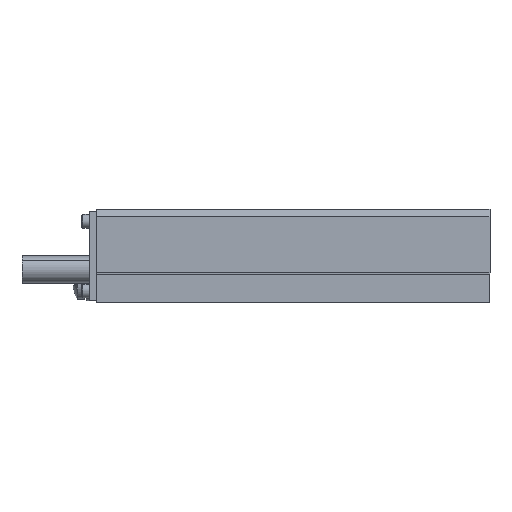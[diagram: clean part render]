
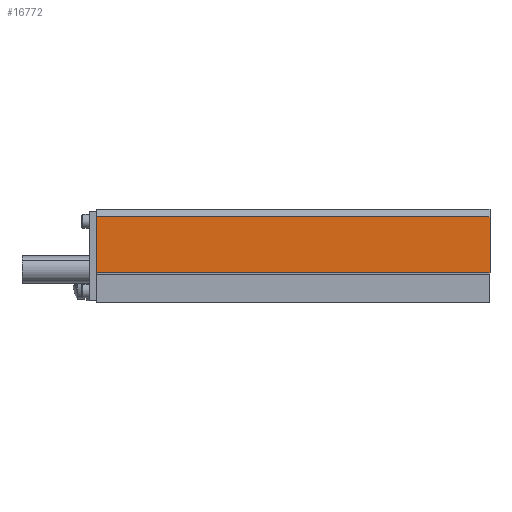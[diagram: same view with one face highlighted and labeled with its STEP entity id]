
A CAD part, front view. The second image highlights one B-rep face of the part: STEP entity #16772.
In plain terms, the highlighted planar face has unit normal (0, -1, 0).
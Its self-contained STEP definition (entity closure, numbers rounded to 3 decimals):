
#143 = EDGE_CURVE ( 'NONE', #10875, #2536, #17948, .T. ) ;
#270 = CARTESIAN_POINT ( 'NONE',  ( 52.5, -40., 23. ) ) ;
#501 = DIRECTION ( 'NONE',  ( 0., -1., 0. ) ) ;
#578 = DIRECTION ( 'NONE',  ( 1., 0., 0. ) ) ;
#2037 = CARTESIAN_POINT ( 'NONE',  ( 52.5, -40., 8. ) ) ;
#2371 = CARTESIAN_POINT ( 'NONE',  ( 52.5, -40., 8. ) ) ;
#2536 = VERTEX_POINT ( 'NONE', #15922 ) ;
#3307 = LINE ( 'NONE', #2037, #7611 ) ;
#3456 = CARTESIAN_POINT ( 'NONE',  ( 52.5, -40., 8. ) ) ;
#3840 = EDGE_CURVE ( 'NONE', #18277, #2536, #16357, .T. ) ;
#4011 = CARTESIAN_POINT ( 'NONE',  ( -52.5, -40., 8. ) ) ;
#4178 = FACE_OUTER_BOUND ( 'NONE', #6427, .T. ) ;
#5142 = ORIENTED_EDGE ( 'NONE', *, *, #12349, .T. ) ;
#5531 = DIRECTION ( 'NONE',  ( 0., 0., 1. ) ) ;
#5556 = AXIS2_PLACEMENT_3D ( 'NONE', #3456, #501, #11004 ) ;
#6427 = EDGE_LOOP ( 'NONE', ( #10214, #12350, #18140, #5142 ) ) ;
#6688 = CARTESIAN_POINT ( 'NONE',  ( -52.5, -40., 23. ) ) ;
#7537 = VECTOR ( 'NONE', #12624, 1000. ) ;
#7611 = VECTOR ( 'NONE', #578, 1000. ) ;
#9481 = PLANE ( 'NONE',  #5556 ) ;
#10214 = ORIENTED_EDGE ( 'NONE', *, *, #16103, .T. ) ;
#10875 = VERTEX_POINT ( 'NONE', #270 ) ;
#11004 = DIRECTION ( 'NONE',  ( 1., 0., 0. ) ) ;
#11119 = CARTESIAN_POINT ( 'NONE',  ( 52.5, -40., 8. ) ) ;
#12349 = EDGE_CURVE ( 'NONE', #18277, #18238, #3307, .T. ) ;
#12350 = ORIENTED_EDGE ( 'NONE', *, *, #143, .T. ) ;
#12624 = DIRECTION ( 'NONE',  ( 0., 0., 1. ) ) ;
#12750 = VECTOR ( 'NONE', #18731, 1000. ) ;
#15922 = CARTESIAN_POINT ( 'NONE',  ( -52.5, -40., 23. ) ) ;
#15955 = LINE ( 'NONE', #11119, #7537 ) ;
#16103 = EDGE_CURVE ( 'NONE', #18238, #10875, #15955, .T. ) ;
#16357 = LINE ( 'NONE', #17599, #19020 ) ;
#16772 = ADVANCED_FACE ( 'NONE', ( #4178 ), #9481, .T. ) ;
#17599 = CARTESIAN_POINT ( 'NONE',  ( -52.5, -40., 8. ) ) ;
#17948 = LINE ( 'NONE', #6688, #12750 ) ;
#18140 = ORIENTED_EDGE ( 'NONE', *, *, #3840, .F. ) ;
#18238 = VERTEX_POINT ( 'NONE', #2371 ) ;
#18277 = VERTEX_POINT ( 'NONE', #4011 ) ;
#18731 = DIRECTION ( 'NONE',  ( -1., 0., 0. ) ) ;
#19020 = VECTOR ( 'NONE', #5531, 1000. ) ;
